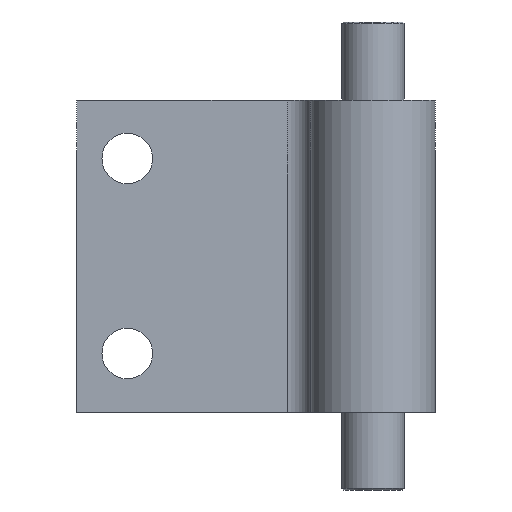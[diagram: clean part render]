
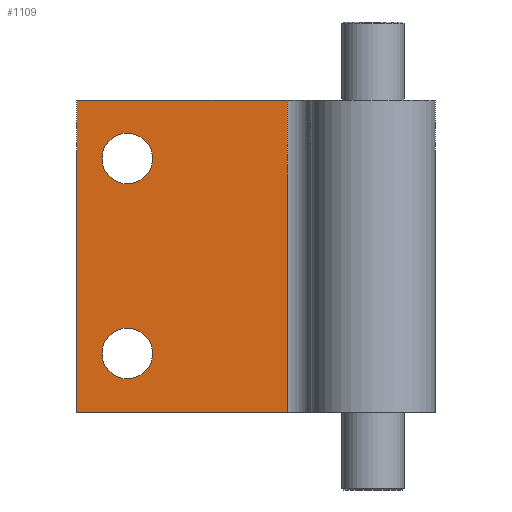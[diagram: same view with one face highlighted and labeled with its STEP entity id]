
A CAD part, left-side view. The second image highlights one B-rep face of the part: STEP entity #1109.
In plain terms, the highlighted planar face has unit normal (-1, 0, 0).
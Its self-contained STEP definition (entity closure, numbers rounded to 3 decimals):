
#14 = ORIENTED_EDGE ( 'NONE', *, *, #598, .F. ) ;
#56 = CARTESIAN_POINT ( 'NONE',  ( 5., 38., -40. ) ) ;
#73 = DIRECTION ( 'NONE',  ( 0., -1., 0. ) ) ;
#86 = DIRECTION ( 'NONE',  ( 0., -1., 0. ) ) ;
#96 = EDGE_CURVE ( 'NONE', #915, #1582, #642, .T. ) ;
#98 = VECTOR ( 'NONE', #1618, 1000. ) ;
#104 = EDGE_LOOP ( 'NONE', ( #2255, #808, #134, #1972 ) ) ;
#134 = ORIENTED_EDGE ( 'NONE', *, *, #96, .T. ) ;
#143 = DIRECTION ( 'NONE',  ( 0., 0., 1. ) ) ;
#159 = CARTESIAN_POINT ( 'NONE',  ( 5., 31.5, -32.5 ) ) ;
#166 = LINE ( 'NONE', #1052, #2188 ) ;
#289 = CARTESIAN_POINT ( 'NONE',  ( 5., 31.5, -7.5 ) ) ;
#313 = CARTESIAN_POINT ( 'NONE',  ( 5., 31.5, -35.75 ) ) ;
#362 = DIRECTION ( 'NONE',  ( 0., -1., 0. ) ) ;
#464 = EDGE_LOOP ( 'NONE', ( #2198, #551 ) ) ;
#480 = VECTOR ( 'NONE', #143, 1000. ) ;
#481 = CIRCLE ( 'NONE', #971, 3.25 ) ;
#551 = ORIENTED_EDGE ( 'NONE', *, *, #2168, .F. ) ;
#598 = EDGE_CURVE ( 'NONE', #1022, #631, #828, .T. ) ;
#631 = VERTEX_POINT ( 'NONE', #2238 ) ;
#642 = LINE ( 'NONE', #56, #98 ) ;
#674 = CARTESIAN_POINT ( 'NONE',  ( 5., 11., -40. ) ) ;
#685 = EDGE_CURVE ( 'NONE', #1325, #2054, #166, .T. ) ;
#692 = AXIS2_PLACEMENT_3D ( 'NONE', #159, #1523, #362 ) ;
#717 = DIRECTION ( 'NONE',  ( -1., 0., 0. ) ) ;
#773 = CARTESIAN_POINT ( 'NONE',  ( 5., 38., -40. ) ) ;
#808 = ORIENTED_EDGE ( 'NONE', *, *, #1726, .F. ) ;
#828 = CIRCLE ( 'NONE', #2437, 3.25 ) ;
#886 = CARTESIAN_POINT ( 'NONE',  ( 5., 31.5, -7.5 ) ) ;
#915 = VERTEX_POINT ( 'NONE', #773 ) ;
#971 = AXIS2_PLACEMENT_3D ( 'NONE', #886, #2240, #1061 ) ;
#993 = FACE_BOUND ( 'NONE', #2510, .T. ) ;
#1022 = VERTEX_POINT ( 'NONE', #1229 ) ;
#1046 = FACE_BOUND ( 'NONE', #464, .T. ) ;
#1052 = CARTESIAN_POINT ( 'NONE',  ( 5., 38., 0. ) ) ;
#1061 = DIRECTION ( 'NONE',  ( 0., -1., 0. ) ) ;
#1098 = VECTOR ( 'NONE', #1207, 1000. ) ;
#1108 = EDGE_CURVE ( 'NONE', #631, #1022, #481, .T. ) ;
#1109 = ADVANCED_FACE ( 'NONE', ( #993, #1046, #2026 ), #1651, .T. ) ;
#1155 = CARTESIAN_POINT ( 'NONE',  ( 5., 38., 0. ) ) ;
#1207 = DIRECTION ( 'NONE',  ( 0., 0., 1. ) ) ;
#1229 = CARTESIAN_POINT ( 'NONE',  ( 5., 31.5, -10.75 ) ) ;
#1234 = EDGE_CURVE ( 'NONE', #1239, #1537, #1250, .T. ) ;
#1239 = VERTEX_POINT ( 'NONE', #313 ) ;
#1250 = CIRCLE ( 'NONE', #2007, 3.25 ) ;
#1253 = DIRECTION ( 'NONE',  ( 0., -1., 0. ) ) ;
#1283 = CARTESIAN_POINT ( 'NONE',  ( 5., 31.5, -29.25 ) ) ;
#1325 = VERTEX_POINT ( 'NONE', #1155 ) ;
#1356 = AXIS2_PLACEMENT_3D ( 'NONE', #2037, #2443, #1253 ) ;
#1380 = CARTESIAN_POINT ( 'NONE',  ( 5., 38., -40. ) ) ;
#1411 = CARTESIAN_POINT ( 'NONE',  ( 5., 11., -40. ) ) ;
#1451 = DIRECTION ( 'NONE',  ( -1., 0., 0. ) ) ;
#1498 = LINE ( 'NONE', #1380, #480 ) ;
#1523 = DIRECTION ( 'NONE',  ( -1., 0., 0. ) ) ;
#1537 = VERTEX_POINT ( 'NONE', #1283 ) ;
#1582 = VERTEX_POINT ( 'NONE', #674 ) ;
#1618 = DIRECTION ( 'NONE',  ( 0., -1., 0. ) ) ;
#1634 = LINE ( 'NONE', #1411, #1098 ) ;
#1651 = PLANE ( 'NONE',  #1356 ) ;
#1656 = EDGE_CURVE ( 'NONE', #1582, #2054, #1634, .T. ) ;
#1684 = CARTESIAN_POINT ( 'NONE',  ( 5., 11., 0. ) ) ;
#1726 = EDGE_CURVE ( 'NONE', #915, #1325, #1498, .T. ) ;
#1755 = CIRCLE ( 'NONE', #692, 3.25 ) ;
#1842 = ORIENTED_EDGE ( 'NONE', *, *, #1108, .F. ) ;
#1877 = CARTESIAN_POINT ( 'NONE',  ( 5., 31.5, -32.5 ) ) ;
#1972 = ORIENTED_EDGE ( 'NONE', *, *, #1656, .T. ) ;
#2007 = AXIS2_PLACEMENT_3D ( 'NONE', #1877, #717, #2067 ) ;
#2026 = FACE_OUTER_BOUND ( 'NONE', #104, .T. ) ;
#2037 = CARTESIAN_POINT ( 'NONE',  ( 5., 38., -40. ) ) ;
#2054 = VERTEX_POINT ( 'NONE', #1684 ) ;
#2067 = DIRECTION ( 'NONE',  ( 0., -1., 0. ) ) ;
#2168 = EDGE_CURVE ( 'NONE', #1537, #1239, #1755, .T. ) ;
#2188 = VECTOR ( 'NONE', #73, 1000. ) ;
#2198 = ORIENTED_EDGE ( 'NONE', *, *, #1234, .F. ) ;
#2238 = CARTESIAN_POINT ( 'NONE',  ( 5., 31.5, -4.25 ) ) ;
#2240 = DIRECTION ( 'NONE',  ( -1., 0., 0. ) ) ;
#2255 = ORIENTED_EDGE ( 'NONE', *, *, #685, .F. ) ;
#2437 = AXIS2_PLACEMENT_3D ( 'NONE', #289, #1451, #86 ) ;
#2443 = DIRECTION ( 'NONE',  ( -1., 0., 0. ) ) ;
#2510 = EDGE_LOOP ( 'NONE', ( #14, #1842 ) ) ;
